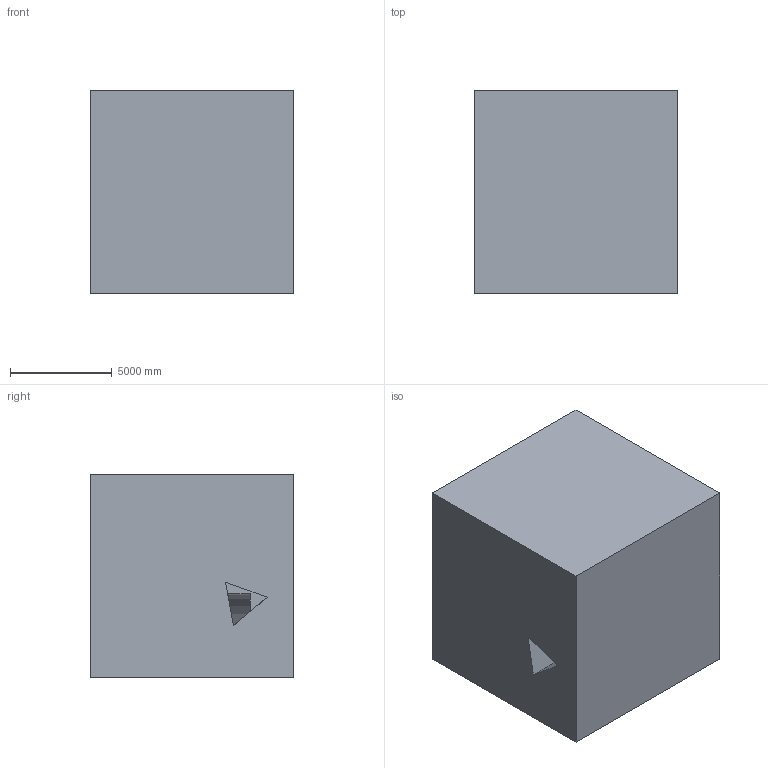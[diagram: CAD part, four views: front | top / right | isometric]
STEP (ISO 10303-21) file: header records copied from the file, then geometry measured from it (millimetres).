
FILE_DESCRIPTION (( 'STEP AP203' ), '1' );
FILE_NAME ('1032.STEP', '2022-08-18T12:29:41', ( 'user' ), ( '' ), 'SwSTEP 2.0', 'SolidWorks 2021', '' );
FILE_SCHEMA (( 'CONFIG_CONTROL_DESIGN' ));
Length unit declared in the file: centimetre
Products named in the file (1): 1032
Bounding box: 10000 x 10000 x 10000 mm (x, y, z)
Volume: 812866717239.8 mm3; surface area: 662181353.3 mm2
Topology: 1 solids, 1 shells, 15 faces, 42 edges, 28 vertices
Faces by surface type: plane 13, cylinder 2
Entity records: 562 total; most frequent: CARTESIAN_POINT 92, ORIENTED_EDGE 84, DIRECTION 77, EDGE_CURVE 42, VECTOR 35, LINE 35, VERTEX_POINT 28, AXIS2_PLACEMENT_3D 21
